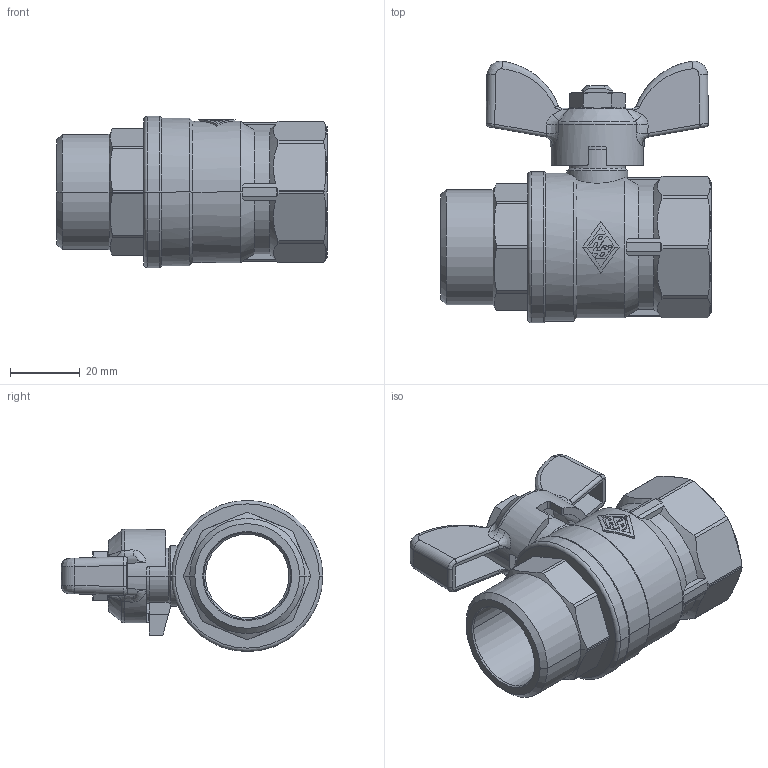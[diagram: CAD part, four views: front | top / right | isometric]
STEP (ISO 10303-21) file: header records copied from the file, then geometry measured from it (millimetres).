
FILE_DESCRIPTION(('OneSpaceDesigner STEP Export'),'2;1');
FILE_NAME('1521060000.stp','2009-04-22T17:03:44',(''),(''),'OneSpace Designer STEP processor for AP214 (Solid Model)','OneSpace Modeling 15.50C 25-Jan-2008 (C) CoCreate Software GmbH','');
FILE_SCHEMA(('AUTOMOTIVE_DESIGN { 1 0 10303 214 1 1 1 1 }'));
Length unit declared in the file: millimetre
Products named in the file (2): 1521060000
Assembly tree (1 placements, depth 2):
  1521060000
    1521060000
Bounding box: 77.75 x 75.25 x 43.5 mm (x, y, z)
Volume: 60760.4 mm3; surface area: 25953.6 mm2
Topology: 1 solids, 1 shells, 608 faces, 1658 edges, 1059 vertices
Faces by surface type: plane 289, cylinder 174, cone 83, bspline 40, torus 22
Entity records: 33414 total; most frequent: CARTESIAN_POINT 17837, ORIENTED_EDGE 3312, DIRECTION 2405, EDGE_CURVE 1656, VERTEX_POINT 1059, AXIS2_PLACEMENT_3D 905, EDGE_LOOP 631, FACE_OUTER_BOUND 608
